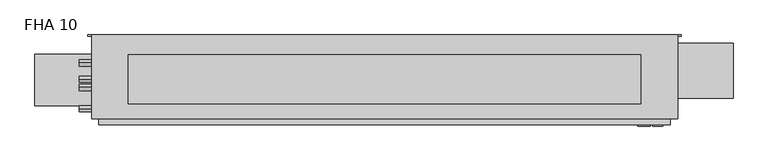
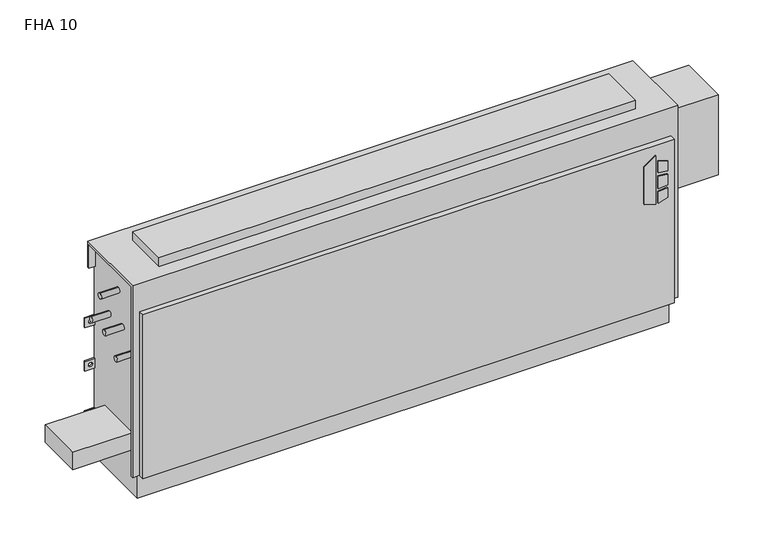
"""IFC4 building model written with IfcOpenShell, lengths in millimetres: proxy geometry, Vertical_Fan_Coil_Unit_-_FHA_-_IEC_-_4-Pipe_TS-FR_LH_2022 : FHA 10."""

from ifc_helpers import new_model, si_unit, point, frame, frame_2d, origin, place, context, project, spatial, polyline, circle_curve, trimmed, segment, composite_curve, outline, extrude, source, transform, mapped, element, save
from ifc_brep_helpers import plane_surface, revolved_surface, advanced_brep


def fha_10_9c9e8b07(model_context):
    return source(origin(), model_context, "Body", "SolidModel", [
        extrude(outline(polyline([(391.6086829, 804.9368862), (381.6606126, 837.1102728), (523.831537, 837.1102728), (500.8095309, 804.9368862), (391.6086829, 804.9368862)])), frame((0.0, 9.525, 0.0), z_axis=(0.0, 1.0, 0.0), x_axis=(0.0, 0.0, 1.0)), (0.0, 0.0, 1.0), 3.175),
        extrude(outline(polyline([(470.6079683, 843.8686058), (467.4055757, 869.95), (496.6344168, 869.95), (504.6988318, 843.8686058), (470.6079683, 843.8686058)])), frame((0.0, 9.525, 0.0), z_axis=(0.0, 1.0, 0.0), x_axis=(0.0, 0.0, 1.0)), (0.0, 0.0, 1.0), 3.175),
        extrude(outline(polyline([(418.7444414, 869.95), (415.0789404, 843.8686058), (381.6606126, 843.8686058), (390.2948498, 869.95), (418.7444414, 869.95)])), frame((0.0, 9.525, 0.0), z_axis=(0.0, 1.0, 0.0), x_axis=(0.0, 0.0, 1.0)), (0.0, 0.0, 1.0), 3.175),
        extrude(outline(polyline([(458.0596028, 869.95), (460.3414292, 843.8686058), (424.4038806, 843.8686058), (427.1451456, 869.95), (458.0596028, 869.95)])), frame((0.0, 9.525, 0.0), z_axis=(0.0, 1.0, 0.0), x_axis=(0.0, 0.0, 1.0)), (0.0, 0.0, 1.0), 3.175),
        extrude(outline(composite_curve([segment(trimmed(circle_curve(frame_2d((-647.7, 128.5875)), 9.525), [point((-657.225, 128.5875))], [point((-638.175, 128.5875))], False, "CARTESIAN"), True, "CONTINUOUS"), segment(trimmed(circle_curve(frame_2d((-647.7, 128.5875)), 9.525), [point((-638.175, 128.5875))], [point((-657.225, 128.5875))], False, "CARTESIAN"), True, "CONTINUOUS")], self_intersect=False)), frame((0.0, 0.0, 101.6), z_axis=(0.0, 0.0, 1.0), x_axis=(1.0, 0.0, 0.0)), (0.0, 0.0, 1.0), 25.4),
        extrude(outline(polyline([(-749.3, 61.9125), (-749.3, 195.2625), (-584.2, 195.2625), (-584.2, 61.9125), (-749.3, 61.9125)])), frame((0.0, 0.0, 127.0), z_axis=(0.0, 0.0, 1.0), x_axis=(1.0, 0.0, 0.0)), (0.0, 0.0, 1.0), 50.8),
        extrude(outline(polyline([(812.8, 193.675), (812.8, 66.675), (-508.0, 66.675), (-508.0, 193.675), (812.8, 193.675)])), frame((0.0, 0.0, 635.0), z_axis=(0.0, 0.0, 1.0), x_axis=(1.0, 0.0, 0.0)), (0.0, 0.0, 1.0), 25.4),
        extrude(outline(composite_curve([segment(trimmed(circle_curve(frame_2d((109.0168, 460.0194)), 7.9375), [point((109.0168, 467.9569))], [point((109.0168, 452.0819))], False, "CARTESIAN"), True, "CONTINUOUS"), segment(trimmed(circle_curve(frame_2d((109.0168, 460.0194)), 7.9375), [point((109.0168, 452.0819))], [point((109.0168, 467.9569))], False, "CARTESIAN"), True, "CONTINUOUS")], self_intersect=False)), frame((-635.0, 0.0, 0.0), z_axis=(1.0, 0.0, 0.0), x_axis=(0.0, 1.0, 0.0)), (0.0, 0.0, 1.0), 50.8),
        extrude(outline(composite_curve([segment(trimmed(circle_curve(frame_2d((172.085, 460.0194)), 7.9375), [point((172.085, 467.9569))], [point((172.085, 452.0819))], False, "CARTESIAN"), True, "CONTINUOUS"), segment(trimmed(circle_curve(frame_2d((172.085, 460.0194)), 7.9375), [point((172.085, 452.0819))], [point((172.085, 467.9569))], False, "CARTESIAN"), True, "CONTINUOUS")], self_intersect=False)), frame((-635.0, 0.0, 0.0), z_axis=(1.0, 0.0, 0.0), x_axis=(0.0, 1.0, 0.0)), (0.0, 0.0, 1.0), 50.8),
        extrude(outline(composite_curve([segment(trimmed(circle_curve(frame_2d((130.175, 554.99)), 7.9502), [point((130.175, 562.9402))], [point((130.175, 547.0398))], False, "CARTESIAN"), True, "CONTINUOUS"), segment(trimmed(circle_curve(frame_2d((130.175, 554.99)), 7.9502), [point((130.175, 547.0398))], [point((130.175, 562.9402))], False, "CARTESIAN"), True, "CONTINUOUS")], self_intersect=False)), frame((-635.0, 0.0, 0.0), z_axis=(1.0, 0.0, 0.0), x_axis=(0.0, 1.0, 0.0)), (0.0, 0.0, 1.0), 50.8),
        extrude(outline(composite_curve([segment(trimmed(circle_curve(frame_2d((53.975, 416.56)), 7.9502), [point((53.975, 424.5102))], [point((53.975, 408.6098))], False, "CARTESIAN"), True, "CONTINUOUS"), segment(trimmed(circle_curve(frame_2d((53.975, 416.56)), 7.9502), [point((53.975, 408.6098))], [point((53.975, 424.5102))], False, "CARTESIAN"), True, "CONTINUOUS")], self_intersect=False)), frame((-635.0, 0.0, 0.0), z_axis=(1.0, 0.0, 0.0), x_axis=(0.0, 1.0, 0.0)), (0.0, 0.0, 1.0), 50.8),
        extrude(outline(polyline([(1050.925, 223.266), (1050.925, 81.534), (889.0, 81.534), (889.0, 223.266), (1050.925, 223.266)])), frame((0.0, 0.0, 349.25), z_axis=(0.0, 0.0, 1.0), x_axis=(1.0, 0.0, 0.0)), (0.0, 0.0, 1.0), 234.95),
        advanced_brep(
        [(908.05, 244.475, 635.0), (-603.25, 244.475, 635.0), (-603.25, 28.575, 635.0), (908.05, 28.575, 635.0), (-584.2, 244.475, 0.0), (889.0, 244.475, 0.0), (889.0, 38.1, 0.0), (-584.2, 38.1, 0.0), (908.05, 244.475, 558.8), (889.0, 244.475, 558.8), (889.0, 244.475, 414.3375), (917.575, 244.475, 414.3375), (917.575, 244.475, 385.7625), (889.0, 244.475, 385.7625), (889.0, 244.475, 287.3375), (917.575, 244.475, 287.3375), (917.575, 244.475, 258.7625), (889.0, 244.475, 258.7625), (889.0, 244.475, 141.2875), (917.575, 244.475, 141.2875), (917.575, 244.475, 112.7125), (889.0, 244.475, 112.7125), (-584.2, 244.475, 112.7125), (-612.775, 244.475, 112.7125), (-612.775, 244.475, 141.2875), (-584.2, 244.475, 141.2875), (-584.2, 244.475, 258.7625), (-612.775, 244.475, 258.7625), (-612.775, 244.475, 287.3375), (-584.2, 244.475, 287.3375), (-584.2, 244.475, 385.7625), (-612.775, 244.475, 385.7625), (-612.775, 244.475, 414.3375), (-584.2, 244.475, 414.3375), (-584.2, 244.475, 558.8), (-603.25, 244.475, 558.8), (907.2626, 244.475, 127.0), (896.1374, 244.475, 127.0), (-591.3374, 244.475, 127.0), (-602.4626, 244.475, 127.0), (907.2626, 244.475, 273.05), (896.1374, 244.475, 273.05), (-591.3374, 244.475, 273.05), (-602.4626, 244.475, 273.05), (907.2626, 244.475, 400.05), (896.1374, 244.475, 400.05), (-591.3374, 244.475, 400.05), (-602.4626, 244.475, 400.05), (-603.25, 238.125, 558.8), (-603.25, 238.125, 628.65), (-603.25, 34.925, 628.65), (-603.25, 34.925, 73.025), (-603.25, 28.575, 73.025), (889.0, 12.7, 552.45), (-584.2, 12.7, 552.45), (-584.2, 12.7, 73.025), (889.0, 12.7, 73.025), (908.05, 28.575, 73.025), (908.05, 34.925, 73.025), (908.05, 34.925, 628.65), (908.05, 238.125, 628.65), (908.05, 238.125, 558.8), (-584.2, 28.575, 73.025), (-584.2, 28.575, 552.45), (889.0, 28.575, 552.45), (889.0, 28.575, 73.025), (-584.2, 34.925, 73.025), (-584.2, 38.1, 73.025), (889.0, 38.1, 73.025), (889.0, 34.925, 73.025), (889.0, 241.3, 112.7125), (889.0, 241.3, 141.2875), (889.0, 241.3, 258.7625), (889.0, 241.3, 287.3375), (889.0, 241.3, 385.7625), (889.0, 241.3, 414.3375), (889.0, 238.125, 558.8), (889.0, 238.125, 628.65), (889.0, 34.925, 628.65), (-584.2, 34.925, 628.65), (-584.2, 238.125, 628.65), (-584.2, 238.125, 558.8), (-584.2, 241.3, 414.3375), (-584.2, 241.3, 385.7625), (-584.2, 241.3, 287.3375), (-584.2, 241.3, 258.7625), (-584.2, 241.3, 141.2875), (-584.2, 241.3, 112.7125), (917.575, 241.3, 112.7125), (917.575, 241.3, 141.2875), (896.1374, 241.3, 127.0), (907.2626, 241.3, 127.0), (917.575, 241.3, 258.7625), (917.575, 241.3, 287.3375), (896.1374, 241.3, 273.05), (907.2626, 241.3, 273.05), (917.575, 241.3, 385.7625), (917.575, 241.3, 414.3375), (896.1374, 241.3, 400.05), (907.2626, 241.3, 400.05), (-612.775, 241.3, 141.2875), (-612.775, 241.3, 112.7125), (-602.4626, 241.3, 127.0), (-591.3374, 241.3, 127.0), (-612.775, 241.3, 287.3375), (-612.775, 241.3, 258.7625), (-602.4626, 241.3, 273.05), (-591.3374, 241.3, 273.05), (-612.775, 241.3, 414.3375), (-612.775, 241.3, 385.7625), (-602.4626, 241.3, 400.05), (-591.3374, 241.3, 400.05)],
        [
            (0, 1),
            (1, 2),
            (2, 3),
            (3, 0),
            (4, 5),
            (5, 6),
            (6, 7),
            (7, 4),
            (0, 8),
            (8, 9),
            (9, 10),
            (10, 11),
            (11, 12),
            (12, 13),
            (13, 14),
            (14, 15),
            (15, 16),
            (16, 17),
            (17, 18),
            (18, 19),
            (19, 20),
            (20, 21),
            (21, 5),
            (4, 22),
            (22, 23),
            (23, 24),
            (24, 25),
            (25, 26),
            (26, 27),
            (27, 28),
            (28, 29),
            (29, 30),
            (30, 31),
            (31, 32),
            (32, 33),
            (33, 34),
            (34, 35),
            (35, 1),
            (36, 37, circle_curve(frame((901.7, 244.475, 127.0), z_axis=(0.0, -1.0, 0.0), x_axis=(-1.0, 0.0, 0.0)), 5.5626)),
            (37, 36, circle_curve(frame((901.7, 244.475, 127.0), z_axis=(0.0, -1.0, 0.0), x_axis=(-1.0, 0.0, 0.0)), 5.5626)),
            (38, 39, circle_curve(frame((-596.9, 244.475, 127.0), z_axis=(0.0, -1.0, 0.0), x_axis=(-1.0, 0.0, 0.0)), 5.5626)),
            (39, 38, circle_curve(frame((-596.9, 244.475, 127.0), z_axis=(0.0, -1.0, 0.0), x_axis=(-1.0, 0.0, 0.0)), 5.5626)),
            (40, 41, circle_curve(frame((901.7, 244.475, 273.05), z_axis=(0.0, -1.0, 0.0), x_axis=(-1.0, 0.0, 0.0)), 5.5626)),
            (41, 40, circle_curve(frame((901.7, 244.475, 273.05), z_axis=(0.0, -1.0, 0.0), x_axis=(-1.0, 0.0, 0.0)), 5.5626)),
            (42, 43, circle_curve(frame((-596.9, 244.475, 273.05), z_axis=(0.0, -1.0, 0.0), x_axis=(-1.0, 0.0, 0.0)), 5.5626)),
            (43, 42, circle_curve(frame((-596.9, 244.475, 273.05), z_axis=(0.0, -1.0, 0.0), x_axis=(-1.0, 0.0, 0.0)), 5.5626)),
            (44, 45, circle_curve(frame((901.7, 244.475, 400.05), z_axis=(0.0, -1.0, 0.0), x_axis=(-1.0, 0.0, 0.0)), 5.5626)),
            (45, 44, circle_curve(frame((901.7, 244.475, 400.05), z_axis=(0.0, -1.0, 0.0), x_axis=(-1.0, 0.0, 0.0)), 5.5626)),
            (46, 47, circle_curve(frame((-596.9, 244.475, 400.05), z_axis=(0.0, -1.0, 0.0), x_axis=(-1.0, 0.0, 0.0)), 5.5626)),
            (47, 46, circle_curve(frame((-596.9, 244.475, 400.05), z_axis=(0.0, -1.0, 0.0), x_axis=(-1.0, 0.0, 0.0)), 5.5626)),
            (35, 48),
            (48, 49),
            (49, 50),
            (50, 51),
            (51, 52),
            (52, 2),
            (53, 54),
            (54, 55),
            (55, 56),
            (56, 53),
            (3, 57),
            (57, 58),
            (58, 59),
            (59, 60),
            (60, 61),
            (61, 8),
            (52, 62),
            (62, 63),
            (63, 64),
            (64, 65),
            (65, 57),
            (53, 64),
            (63, 54),
            (55, 62),
            (51, 66),
            (66, 67),
            (67, 68),
            (68, 69),
            (69, 58),
            (65, 56),
            (6, 68),
            (67, 7),
            (21, 70),
            (70, 71),
            (71, 18),
            (17, 72),
            (72, 73),
            (73, 14),
            (13, 74),
            (74, 75),
            (75, 10),
            (9, 76),
            (76, 77),
            (77, 78),
            (78, 69),
            (66, 79),
            (79, 80),
            (80, 81),
            (81, 34),
            (33, 82),
            (82, 83),
            (83, 30),
            (29, 84),
            (84, 85),
            (85, 26),
            (25, 86),
            (86, 87),
            (87, 22),
            (76, 61),
            (60, 77),
            (78, 59),
            (50, 79),
            (81, 48),
            (80, 49),
            (70, 88),
            (88, 89),
            (89, 71),
            (90, 91, circle_curve(frame((901.7, 241.3, 127.0), z_axis=(0.0, 1.0, 0.0), x_axis=(-1.0, 0.0, 0.0)), 5.5626)),
            (91, 90, circle_curve(frame((901.7, 241.3, 127.0), z_axis=(0.0, 1.0, 0.0), x_axis=(-1.0, 0.0, 0.0)), 5.5626)),
            (92, 93),
            (93, 73),
            (72, 92),
            (94, 95, circle_curve(frame((901.7, 241.3, 273.05), z_axis=(0.0, 1.0, 0.0), x_axis=(-1.0, 0.0, 0.0)), 5.5626)),
            (95, 94, circle_curve(frame((901.7, 241.3, 273.05), z_axis=(0.0, 1.0, 0.0), x_axis=(-1.0, 0.0, 0.0)), 5.5626)),
            (96, 97),
            (97, 75),
            (74, 96),
            (98, 99, circle_curve(frame((901.7, 241.3, 400.05), z_axis=(0.0, 1.0, 0.0), x_axis=(-1.0, 0.0, 0.0)), 5.5626)),
            (99, 98, circle_curve(frame((901.7, 241.3, 400.05), z_axis=(0.0, 1.0, 0.0), x_axis=(-1.0, 0.0, 0.0)), 5.5626)),
            (100, 101),
            (101, 87),
            (86, 100),
            (102, 103, circle_curve(frame((-596.9, 241.3, 127.0), z_axis=(0.0, 1.0, 0.0), x_axis=(-1.0, 0.0, 0.0)), 5.5626)),
            (103, 102, circle_curve(frame((-596.9, 241.3, 127.0), z_axis=(0.0, 1.0, 0.0), x_axis=(-1.0, 0.0, 0.0)), 5.5626)),
            (84, 104),
            (104, 105),
            (105, 85),
            (106, 107, circle_curve(frame((-596.9, 241.3, 273.05), z_axis=(0.0, 1.0, 0.0), x_axis=(-1.0, 0.0, 0.0)), 5.5626)),
            (107, 106, circle_curve(frame((-596.9, 241.3, 273.05), z_axis=(0.0, 1.0, 0.0), x_axis=(-1.0, 0.0, 0.0)), 5.5626)),
            (108, 109),
            (109, 83),
            (82, 108),
            (110, 111, circle_curve(frame((-596.9, 241.3, 400.05), z_axis=(0.0, 1.0, 0.0), x_axis=(-1.0, 0.0, 0.0)), 5.5626)),
            (111, 110, circle_curve(frame((-596.9, 241.3, 400.05), z_axis=(0.0, 1.0, 0.0), x_axis=(-1.0, 0.0, 0.0)), 5.5626)),
            (89, 19),
            (88, 20),
            (16, 92),
            (93, 15),
            (12, 96),
            (97, 11),
            (24, 100),
            (101, 23),
            (105, 27),
            (104, 28),
            (32, 108),
            (109, 31),
            (90, 37),
            (36, 91),
            (102, 39),
            (38, 103),
            (94, 41),
            (40, 95),
            (106, 43),
            (42, 107),
            (98, 45),
            (44, 99),
            (110, 47),
            (46, 111),
        ],
        [
            plane_surface(frame((-603.25, 244.475, 635.0), z_axis=(0.0, 0.0, 1.0), x_axis=(-1.0, 0.0, 0.0))),
            plane_surface(frame((-603.25, 244.475, 0.0), z_axis=(0.0, 0.0, -1.0), x_axis=(1.0, 0.0, 0.0))),
            plane_surface(frame((908.05, 244.475, 635.0), z_axis=(0.0, 1.0, 0.0), x_axis=(0.0, 0.0, -1.0))),
            plane_surface(frame((-603.25, 244.475, 635.0), z_axis=(-1.0, 0.0, 0.0), x_axis=(0.0, 0.0, -1.0))),
            plane_surface(frame((-603.25, 12.7, 635.0), z_axis=(0.0, -1.0, 0.0), x_axis=(0.0, 0.0, -1.0))),
            plane_surface(frame((908.05, 12.7, 635.0), z_axis=(1.0, 0.0, 0.0), x_axis=(0.0, 0.0, -1.0))),
            plane_surface(frame((-1060.45, 28.575, 635.0), z_axis=(0.0, -1.0, 0.0), x_axis=(1.0, 0.0, 0.0))),
            plane_surface(frame((-1060.45, 28.575, 552.45), z_axis=(0.0, 0.0, 1.0), x_axis=(1.0, 0.0, 0.0))),
            plane_surface(frame((-603.25, 12.7, 73.025), z_axis=(0.0, 0.0, -1.0), x_axis=(1.0, 0.0, 0.0))),
            plane_surface(frame((-603.25, 38.1, 73.025), z_axis=(0.0, -1.0, 0.0), x_axis=(1.0, 0.0, 0.0))),
            plane_surface(frame((889.0, 28.575, 73.025), z_axis=(1.0, 0.0, 0.0), x_axis=(0.0, -1.0, 0.0))),
            plane_surface(frame((-584.2, 28.575, 552.45), z_axis=(-1.0, 0.0, 0.0), x_axis=(0.0, -1.0, 0.0))),
            plane_surface(frame((889.0, 244.475, 0.0), z_axis=(1.0, 0.0, 0.0), x_axis=(0.0, -1.0, 0.0))),
            plane_surface(frame((-584.2, 244.475, 73.025), z_axis=(-1.0, 0.0, 0.0), x_axis=(0.0, -1.0, 0.0))),
            plane_surface(frame((889.0, 238.125, 628.65), z_axis=(0.0, -1.0, 0.0), x_axis=(1.0, 0.0, 0.0))),
            plane_surface(frame((889.0, 238.125, 558.8), z_axis=(0.0, 0.0, -1.0), x_axis=(1.0, 0.0, 0.0))),
            plane_surface(frame((889.0, 34.925, 73.025), z_axis=(0.0, 1.0, 0.0), x_axis=(1.0, 0.0, 0.0))),
            plane_surface(frame((889.0, 34.925, 628.65), z_axis=(0.0, 0.0, -1.0), x_axis=(1.0, 0.0, 0.0))),
            plane_surface(frame((-584.2, 34.925, 628.65), z_axis=(0.0, 1.0, 0.0), x_axis=(-1.0, 0.0, 0.0))),
            plane_surface(frame((-584.2, 244.475, 558.8), z_axis=(0.0, 0.0, -1.0), x_axis=(-1.0, 0.0, 0.0))),
            plane_surface(frame((-584.2, 238.125, 558.8), z_axis=(0.0, -1.0, 0.0), x_axis=(-1.0, 0.0, 0.0))),
            plane_surface(frame((-584.2, 238.125, 628.65), z_axis=(0.0, 0.0, -1.0), x_axis=(-1.0, 0.0, 0.0))),
            plane_surface(frame((917.575, 241.3, 141.2875), z_axis=(0.0, -1.0, 0.0), x_axis=(-1.0, 0.0, 0.0))),
            plane_surface(frame((889.0, 244.475, 141.2875), z_axis=(0.0, 0.0, 1.0), x_axis=(0.0, -1.0, 0.0))),
            plane_surface(frame((917.575, 244.475, 141.2875), z_axis=(1.0, 0.0, 0.0), x_axis=(0.0, -1.0, 0.0))),
            plane_surface(frame((917.575, 244.475, 112.7125), z_axis=(0.0, 0.0, -1.0), x_axis=(0.0, -1.0, 0.0))),
            plane_surface(frame((917.575, 244.475, 258.7625), z_axis=(0.0, 0.0, -1.0), x_axis=(0.0, -1.0, 0.0))),
            plane_surface(frame((889.0, 244.475, 287.3375), z_axis=(0.0, 0.0, 1.0), x_axis=(0.0, -1.0, 0.0))),
            plane_surface(frame((917.575, 244.475, 287.3375), z_axis=(1.0, 0.0, 0.0), x_axis=(0.0, -1.0, 0.0))),
            plane_surface(frame((917.575, 244.475, 385.7625), z_axis=(0.0, 0.0, -1.0), x_axis=(0.0, -1.0, 0.0))),
            plane_surface(frame((889.0, 244.475, 414.3375), z_axis=(0.0, 0.0, 1.0), x_axis=(0.0, -1.0, 0.0))),
            plane_surface(frame((917.575, 244.475, 414.3375), z_axis=(1.0, 0.0, 0.0), x_axis=(0.0, -1.0, 0.0))),
            plane_surface(frame((-612.775, 244.475, 141.2875), z_axis=(0.0, 0.0, 1.0), x_axis=(0.0, -1.0, 0.0))),
            plane_surface(frame((-584.2, 244.475, 112.7125), z_axis=(0.0, 0.0, -1.0), x_axis=(0.0, -1.0, 0.0))),
            plane_surface(frame((-612.775, 244.475, 112.7125), z_axis=(-1.0, 0.0, 0.0), x_axis=(0.0, -1.0, 0.0))),
            plane_surface(frame((-584.2, 244.475, 258.7625), z_axis=(0.0, 0.0, -1.0), x_axis=(0.0, -1.0, 0.0))),
            plane_surface(frame((-612.775, 244.475, 258.7625), z_axis=(-1.0, 0.0, 0.0), x_axis=(0.0, -1.0, 0.0))),
            plane_surface(frame((-612.775, 244.475, 287.3375), z_axis=(0.0, 0.0, 1.0), x_axis=(0.0, -1.0, 0.0))),
            plane_surface(frame((-612.775, 244.475, 414.3375), z_axis=(0.0, 0.0, 1.0), x_axis=(0.0, -1.0, 0.0))),
            plane_surface(frame((-584.2, 244.475, 385.7625), z_axis=(0.0, 0.0, -1.0), x_axis=(0.0, -1.0, 0.0))),
            plane_surface(frame((-612.775, 244.475, 385.7625), z_axis=(-1.0, 0.0, 0.0), x_axis=(0.0, -1.0, 0.0))),
            revolved_surface(polyline([(896.1374000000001, 241.3, 127.0), (896.1374000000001, 244.475, 127.0)]), (901.7, 244.475, 127.0), (0.0, -1.0, 0.0)),
            revolved_surface(polyline([(-602.4626, 241.3, 127.0), (-602.4626, 244.475, 127.0)]), (-596.9, 244.475, 127.0), (0.0, -1.0, 0.0)),
            revolved_surface(polyline([(896.1374000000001, 241.3, 273.05), (896.1374000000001, 244.475, 273.05)]), (901.7, 244.475, 273.05), (0.0, -1.0, 0.0)),
            revolved_surface(polyline([(-602.4626, 241.3, 273.05), (-602.4626, 244.475, 273.05)]), (-596.9, 244.475, 273.05), (0.0, -1.0, 0.0)),
            revolved_surface(polyline([(896.1374000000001, 241.3, 400.05), (896.1374000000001, 244.475, 400.05)]), (901.7, 244.475, 400.05), (0.0, -1.0, 0.0)),
            revolved_surface(polyline([(-602.4626, 241.3, 400.05), (-602.4626, 244.475, 400.05)]), (-596.9, 244.475, 400.05), (0.0, -1.0, 0.0)),
        ],
        [
            (0, [[1, 2, 3, 4]]),
            (1, [[5, 6, 7, 8]]),
            (2, [[-1, 9, 10, 11, 12, 13, 14, 15, 16, 17, 18, 19, 20, 21, 22, 23, -5, 24, 25, 26, 27, 28, 29, 30, 31, 32, 33, 34, 35, 36, 37, 38], [39, 40], [41, 42], [43, 44], [45, 46], [47, 48], [49, 50]]),
            (3, [[-2, -38, 51, 52, 53, 54, 55, 56]]),
            (4, [[57, 58, 59, 60]]),
            (5, [[-4, 61, 62, 63, 64, 65, 66, -9]]),
            (6, [[-3, -56, 67, 68, 69, 70, 71, -61]]),
            (7, [[-57, 72, -69, 73]]),
            (8, [[-59, 74, -67, -55, 75, 76, 77, 78, 79, -62, -71, 80]]),
            (9, [[-7, 81, -77, 82]]),
            (10, [[-70, -72, -60, -80]]),
            (11, [[-68, -74, -58, -73]]),
            (12, [[-6, -23, 83, 84, 85, -19, 86, 87, 88, -15, 89, 90, 91, -11, 92, 93, 94, 95, -78, -81]]),
            (13, [[-8, -82, -76, 96, 97, 98, 99, -36, 100, 101, 102, -32, 103, 104, 105, -28, 106, 107, 108, -24]]),
            (14, [[-93, 109, -65, 110]]),
            (15, [[-92, -10, -66, -109]]),
            (16, [[-95, 111, -63, -79]]),
            (17, [[-94, -110, -64, -111]]),
            (18, [[-96, -75, -54, 112]]),
            (19, [[-99, 113, -51, -37]]),
            (20, [[-98, 114, -52, -113]]),
            (21, [[-97, -112, -53, -114]]),
            (22, [[115, 116, 117, -84], [118, 119]]),
            (22, [[120, 121, -87, 122], [123, 124]]),
            (22, [[125, 126, -90, 127], [128, 129]]),
            (22, [[130, 131, -107, 132], [133, 134]]),
            (22, [[135, 136, 137, -104], [138, 139]]),
            (22, [[140, 141, -101, 142], [143, 144]]),
            (23, [[-117, 145, -20, -85]]),
            (24, [[-116, 146, -21, -145]]),
            (25, [[-115, -83, -22, -146]]),
            (26, [[-122, -86, -18, 147]]),
            (27, [[-121, 148, -16, -88]]),
            (28, [[-120, -147, -17, -148]]),
            (29, [[-127, -89, -14, 149]]),
            (30, [[-126, 150, -12, -91]]),
            (31, [[-125, -149, -13, -150]]),
            (32, [[-132, -106, -27, 151]]),
            (33, [[-131, 152, -25, -108]]),
            (34, [[-130, -151, -26, -152]]),
            (35, [[-137, 153, -29, -105]]),
            (36, [[-136, 154, -30, -153]]),
            (37, [[-135, -103, -31, -154]]),
            (38, [[-142, -100, -35, 155]]),
            (39, [[-141, 156, -33, -102]]),
            (40, [[-140, -155, -34, -156]]),
            (41, [[157, -39, 158, -118]]),
            (41, [[-157, -119, -158, -40]]),
            (42, [[159, -41, 160, -133]]),
            (42, [[-159, -134, -160, -42]]),
            (43, [[161, -43, 162, -123]]),
            (43, [[-161, -124, -162, -44]]),
            (44, [[163, -45, 164, -138]]),
            (44, [[-163, -139, -164, -46]]),
            (45, [[165, -47, 166, -128]]),
            (45, [[-165, -129, -166, -48]]),
            (46, [[167, -49, 168, -143]]),
            (46, [[-167, -144, -168, -50]]),
        ],
    ),
    ])


if __name__ == "__main__":
    model = new_model("IFC4")
    model_context = context("Model", 3, world=origin())
    ifc_project = project(units=[si_unit("LENGTHUNIT", "METRE", prefix="MILLI")], contexts=[model_context])
    site = spatial("IfcSite", under=ifc_project)
    building = spatial("IfcBuilding", under=site)
    placement = place(None, origin())
    fha_10_shape = fha_10_9c9e8b07(model_context)
    element("IfcBuildingElementProxy", 1, Name="Vertical_Fan_Coil_Unit_-_FHA_-_IEC_-_4-Pipe_TS-FR_LH_2022 : FHA 10", ObjectType="Vertical_Fan_Coil_Unit_-_FHA_-_IEC_-_4-Pipe_TS-FR_LH_2022 : FHA 10", at=placement, inside=building, context=model_context, shape_type="MappedRepresentation", body=[
        mapped(fha_10_shape, transform((0.0, 0.0, 0.0), x_axis=(1.0, 0.0, 0.0), y_axis=(0.0, 1.0, 0.0), z_axis=(0.0, 0.0, 1.0))),
    ])
    save(model, "model.ifc")
